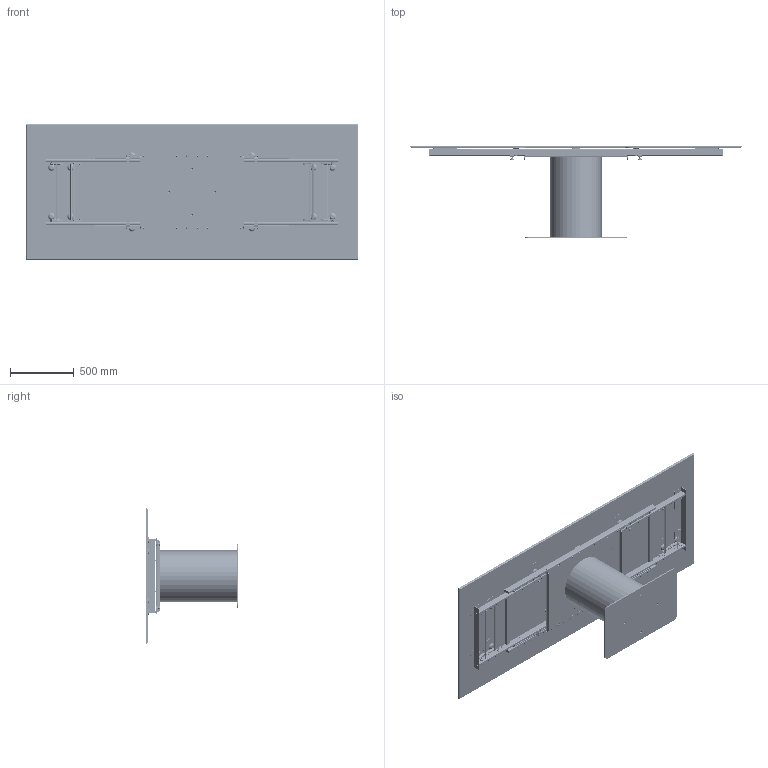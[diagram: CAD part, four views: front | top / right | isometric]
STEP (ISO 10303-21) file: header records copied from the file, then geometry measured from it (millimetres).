
FILE_DESCRIPTION (( 'STEP AP203' ), '1' );
FILE_NAME ('CA31C_OPEN.STEP', '2024-08-08T10:03:35', ( '' ), ( '' ), 'SwSTEP 2.0', 'SolidWorks 2022', '' );
FILE_SCHEMA (( 'CONFIG_CONTROL_DESIGN' ));
Length unit declared in the file: millimetre
Products named in the file (71): 1000013; K34-00-PIANO ALLUNGABILE 180X106; 523020817; 1000181; 523020801; CIL000000PST40-00-CILINRO ALLUN. PIASTRA SOTTO PER D.40cm_rettangolare; 1000573; K34_01-00-CERAMICA X ALLUNGABILE 180X106; 1000170; 523020809; 1000001A; 1000325; K34A-00-ALLUNGA 40X106; 1000304; 521061110; 1000244; 1000046; 523020802; RUOTA NEB H23,4; CIL000000-00-CILINDRO ALLUNGABILE BASE D.400 C PIASTRA_BICOLORE; 1000375; 1000251; 523020814; 523020813; 1001535; 1000262; 523020805; 1000242; 2001011; 1000096; 523020806; SAB100301_02-00-CILINDRO_TWIST ALL PIASTRA ANCORAGGIO V03 ANTRACITE GOFFRATO IMB.SLDASM; TTAV04-00-TELAIO ALLUNGABILE X TAVOLI 180 260cm_aperto_02; 1000166; 5230208 TEL EST_DEFAULT; M6xXXmm_M6x20mm; 1000865; DISCO PER PIANI IN CERAMICA; 1000973; 1000337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
Assembly tree (218 placements, depth 5):
  CA31C_OPEN
    K34A-00-ALLUNGA 40X106  x2
      K34A_01-00-CERAMICA ALLUNGA 40X106
      DISCO PER PIANI IN CERAMICA
    K34-00-PIANO ALLUNGABILE 180X106
      K34_01-00-CERAMICA X ALLUNGABILE 180X106
      DISCO PER PIANI IN CERAMICA  x4
    CIL000000-00-CILINDRO ALLUNGABILE BASE D.400 C PIASTRA_BICOLORE
      CIL000000COL40-00-CILINDRO ALLUN. COLONNA D.40cm_INDICAZIONE COLORE
      CIL000000PST40-00-CILINRO ALLUN. PIASTRA SOTTO PER D.40cm_rettangolare
    COLLO TELAIO UNIVERSALE SAB100301 CON FERRAMENTA
      SAB100301-00-CILINDRO_TWIST ALL PIASTRA ANCORAGGIO V03 ANTRACITE GOFFRATO IMB
        SAB100301_01-00-CILINDRO_TWIST ALL PIASTRA ANCORAGGIO V03 ANTRACITE GOFFRATO IMB.SLDASM
        SAB100301_02-00-CILINDRO_TWIST ALL PIASTRA ANCORAGGIO V03 ANTRACITE GOFFRATO IMB.SLDASM  x2
      M6xXXmm_M6x20mm  x12
    TTAV04-00-TELAIO ALLUNGABILE X TAVOLI 180 260cm_aperto_02
      5230208 TEL EST_DEFAULT
        523020803  x2
        523020813  x2
        521061110  x2
        523020811
        FERMO NEBULA H15,5  x4
          1000242
          1000515
          1000325
        1000144  x4
        521060816  x4
        1001535  x4
        1000250  x24
        1000165
        1000305  x4
        1000280  x4
        1000013  x4
        1000865  x4
        3001149  x4
        1000273  x20
        523020814  x4
        1000375  x8
        1000166
        1001576  x4
      5230208 TEL INT_CHIUSO_aperto  x2
        5230208 SAL_LIBERO
          523020808
          523020806
          523020801  x2
          523020804_DEFAULT
          523020805
          521061107_DEFAULT  x4
          2001011  x2
        523020802
        1000487
        RUOTA NEB H23,4
          1000338
          1000443
          1000084
        1000289
        1000096
        1000170
        1000304
        1000244
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Bounding box: 2600 x 724.5 x 1060 mm (x, y, z)
Volume: 48650971.7 mm3; surface area: 18490572.9 mm2
Topology: 162 solids, 305 shells, 8102 faces, 19532 edges, 12340 vertices
Faces by surface type: cylinder 3436, plane 3270, cone 756, bspline 472, torus 168
Entity records: 71199 total; most frequent: CARTESIAN_POINT 12363, DIRECTION 10526, ORIENTED_EDGE 9420, EDGE_CURVE 4710, AXIS2_PLACEMENT_3D 3955, VERTEX_POINT 3028, VECTOR 2616, LINE 2616
